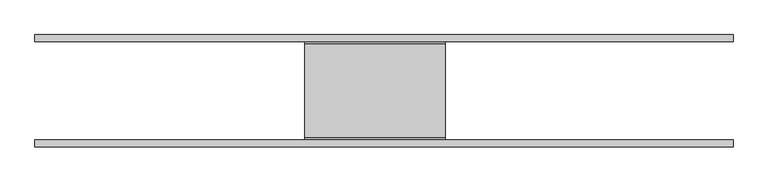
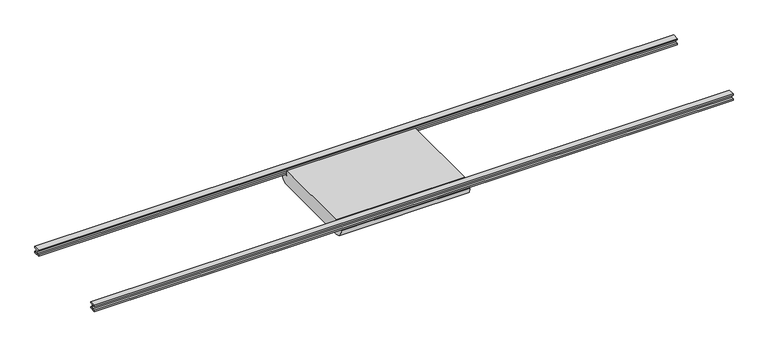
"""IFC4 building model written with IfcOpenShell, lengths in millimetres: furniture geometry, BIMHealth - Artis_Zee_C-Arm-Ceiling-Mount-LOD2A-v1 : BIMHealth - Artis_Zee_C-Arm-Ceiling-Mount-LOD2A-v1."""

from ifc_helpers import new_model, si_unit, point, frame, frame_2d, origin, place, context, project, spatial, polyline, circle_curve, trimmed, segment, composite_curve, outline, extrude, source, transform, mapped, element, save


def furniture_bb079bd4(model_context):
    return source(origin(), model_context, "Body", "SweptSolid", [
        extrude(outline(polyline([(100.0, 1855.0), (100.0, 1840.0), (70.0, 1840.0), (70.0, 1795.0), (100.0, 1795.0), (100.0, 1780.0), (25.0, 1780.0), (25.0, 1795.0), (55.0, 1795.0), (55.0, 1840.0), (25.0, 1840.0), (25.0, 1855.0), (100.0, 1855.0)])), frame((-1276.8140957, 0.0, 0.0), z_axis=(1.0, 0.0, 0.0), x_axis=(0.0, 1.0, 0.0)), (0.0, 0.0, 1.0), 7450.0000814),
        extrude(outline(polyline([(-1100.0, 1855.0), (-1025.0, 1855.0), (-1025.0, 1840.0), (-1055.0, 1840.0), (-1055.0, 1795.0), (-1025.0, 1795.0), (-1025.0, 1780.0), (-1100.0, 1780.0), (-1100.0, 1795.0), (-1070.0, 1795.0), (-1070.0, 1840.0), (-1100.0, 1840.0), (-1100.0, 1855.0)])), frame((-1276.8140957, 0.0, 0.0), z_axis=(1.0, 0.0, 0.0), x_axis=(0.0, 1.0, 0.0)), (0.0, 0.0, 1.0), 7450.0000814),
        extrude(outline(composite_curve([segment(polyline([(-1000.0, 1840.0), (0.0, 1840.0), (0.0, 1780.0), (100.0, 1780.0), (100.0, 1765.0)]), True, "CONTINUOUS"), segment(trimmed(circle_curve(frame_2d((0.0, 1765.0)), 100.0), [point((100.0, 1765.0))], [point((0.0, 1665.0))], False, "CARTESIAN"), True, "CONTINUOUS"), segment(polyline([(0.0, 1665.0), (-1000.0, 1665.0)]), True, "CONTINUOUS"), segment(trimmed(circle_curve(frame_2d((-1000.0, 1765.0)), 100.0), [point((-1000.0, 1665.0))], [point((-1100.0, 1765.0))], False, "CARTESIAN"), True, "CONTINUOUS"), segment(polyline([(-1100.0, 1765.0), (-1100.0, 1780.0), (-1000.0, 1780.0), (-1000.0, 1840.0)]), True, "CONTINUOUS")], self_intersect=False)), frame((1603.0848963, 0.0, 0.0), z_axis=(1.0, 0.0, 0.0), x_axis=(0.0, 1.0, 0.0)), (0.0, 0.0, 1.0), 1500.0),
    ])


if __name__ == "__main__":
    model = new_model("IFC4")
    model_context = context("Model", 3, world=origin())
    ifc_project = project(units=[si_unit("LENGTHUNIT", "METRE", prefix="MILLI")], contexts=[model_context])
    site = spatial("IfcSite", under=ifc_project)
    building = spatial("IfcBuilding", under=site)
    placement = place(None, origin())
    furniture_shape = furniture_bb079bd4(model_context)
    element("IfcFurniture", 1, ObjectType="BIMHealth - Artis_Zee_C-Arm-Ceiling-Mount-LOD2A-v1 : BIMHealth - Artis_Zee_C-Arm-Ceiling-Mount-LOD2A-v1", at=placement, inside=building, context=model_context, shape_type="MappedRepresentation", body=[
        mapped(furniture_shape, transform((0.0, 0.0, 0.0), x_axis=(1.0, 0.0, 0.0), y_axis=(0.0, 1.0, 0.0), z_axis=(0.0, 0.0, 1.0))),
    ])
    save(model, "model.ifc")
